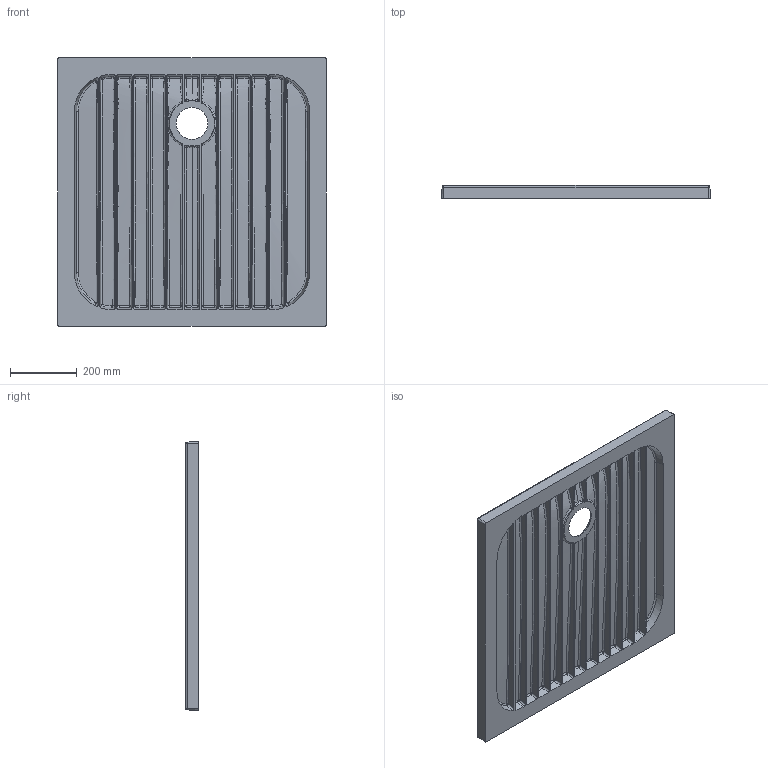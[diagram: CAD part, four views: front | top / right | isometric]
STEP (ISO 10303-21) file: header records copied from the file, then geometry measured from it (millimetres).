
FILE_DESCRIPTION (( 'STEP AP203' ), '1' );
FILE_NAME ('RAPID PD08008040.STEP', '2022-01-19T08:10:46', ( '' ), ( '' ), 'SwSTEP 2.0', 'SolidWorks 2021', '' );
FILE_SCHEMA (( 'CONFIG_CONTROL_DESIGN' ));
Length unit declared in the file: millimetre
Products named in the file (1): RAPID PD08008040
Bounding box: 801.33 x 38 x 801.33 mm (x, y, z)
Volume: 12885581.6 mm3; surface area: 1665203.1 mm2
Topology: 1 solids, 1 shells, 297 faces, 664 edges, 379 vertices
Faces by surface type: bspline 116, sphere 60, plane 58, cylinder 48, cone 13, torus 2
Entity records: 31115 total; most frequent: CARTESIAN_POINT 25436, ORIENTED_EDGE 1314, DIRECTION 950, EDGE_CURVE 657, AXIS2_PLACEMENT_3D 395, VERTEX_POINT 379, EDGE_LOOP 316, FACE_OUTER_BOUND 299
